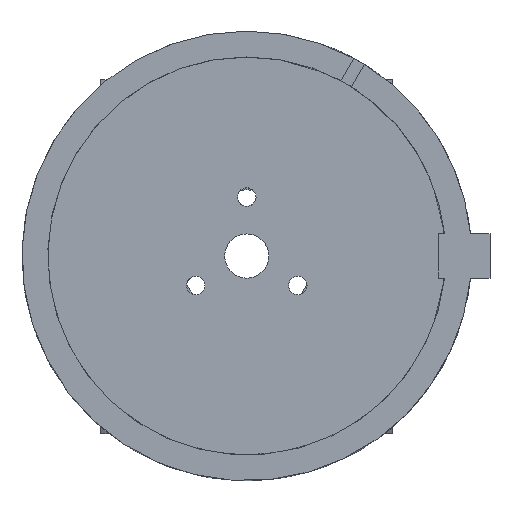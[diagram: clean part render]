
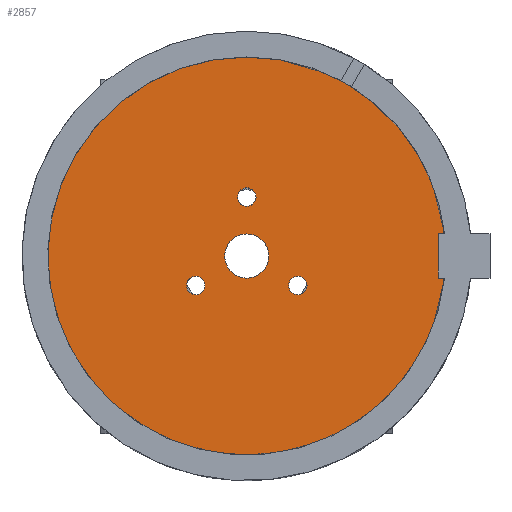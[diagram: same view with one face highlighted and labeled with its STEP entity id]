
A CAD part, top view. The second image highlights one B-rep face of the part: STEP entity #2857.
In plain terms, the highlighted planar face has unit normal (0, 0, 1).
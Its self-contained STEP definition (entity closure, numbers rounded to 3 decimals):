
#627 = CYLINDRICAL_SURFACE('',#628,27.);
#628 = AXIS2_PLACEMENT_3D('',#629,#630,#631);
#629 = CARTESIAN_POINT('',(0.,0.,72.));
#630 = DIRECTION('',(-0.,0.,-1.));
#631 = DIRECTION('',(0.,1.,0.));
#1532 = EDGE_CURVE('',#1533,#1533,#1535,.T.);
#1533 = VERTEX_POINT('',#1534);
#1534 = CARTESIAN_POINT('',(0.,27.,75.));
#1535 = SURFACE_CURVE('',#1536,(#1541,#1548),.PCURVE_S1.);
#1536 = CIRCLE('',#1537,27.);
#1537 = AXIS2_PLACEMENT_3D('',#1538,#1539,#1540);
#1538 = CARTESIAN_POINT('',(0.,0.,75.));
#1539 = DIRECTION('',(-0.,0.,-1.));
#1540 = DIRECTION('',(0.,1.,0.));
#1541 = PCURVE('',#627,#1542);
#1542 = DEFINITIONAL_REPRESENTATION('',(#1543),#1547);
#1543 = LINE('',#1544,#1545);
#1544 = CARTESIAN_POINT('',(-6.283,-3.));
#1545 = VECTOR('',#1546,1.);
#1546 = DIRECTION('',(1.,-0.));
#1547 = ( GEOMETRIC_REPRESENTATION_CONTEXT(2) 
PARAMETRIC_REPRESENTATION_CONTEXT() REPRESENTATION_CONTEXT('2D SPACE',''
  ) );
#1548 = PCURVE('',#1549,#1554);
#1549 = PLANE('',#1550);
#1550 = AXIS2_PLACEMENT_3D('',#1551,#1552,#1553);
#1551 = CARTESIAN_POINT('',(0.,0.,75.)
  );
#1552 = DIRECTION('',(0.,0.,1.));
#1553 = DIRECTION('',(1.,0.,-0.));
#1554 = DEFINITIONAL_REPRESENTATION('',(#1555),#1563);
#1555 = ( BOUNDED_CURVE() B_SPLINE_CURVE(2,(#1556,#1557,#1558,#1559,
#1560,#1561,#1562),.UNSPECIFIED.,.T.,.F.) B_SPLINE_CURVE_WITH_KNOTS((1,2
    ,2,2,2,1),(-2.094,0.,2.094,4.189,
6.283,8.378),.UNSPECIFIED.) CURVE() 
GEOMETRIC_REPRESENTATION_ITEM() RATIONAL_B_SPLINE_CURVE((1.,0.5,1.,0.5,
1.,0.5,1.)) REPRESENTATION_ITEM('') );
#1556 = CARTESIAN_POINT('',(0.,27.));
#1557 = CARTESIAN_POINT('',(46.765,27.));
#1558 = CARTESIAN_POINT('',(23.383,-13.5));
#1559 = CARTESIAN_POINT('',(0.,-54.));
#1560 = CARTESIAN_POINT('',(-23.383,-13.5));
#1561 = CARTESIAN_POINT('',(-46.765,27.));
#1562 = CARTESIAN_POINT('',(0.,27.));
#1563 = ( GEOMETRIC_REPRESENTATION_CONTEXT(2) 
PARAMETRIC_REPRESENTATION_CONTEXT() REPRESENTATION_CONTEXT('2D SPACE',''
  ) );
#2857 = ADVANCED_FACE('',(#2858,#2861,#2896,#2931,#2966),#1549,.T.);
#2858 = FACE_BOUND('',#2859,.T.);
#2859 = EDGE_LOOP('',(#2860));
#2860 = ORIENTED_EDGE('',*,*,#1532,.F.);
#2861 = FACE_BOUND('',#2862,.T.);
#2862 = EDGE_LOOP('',(#2863));
#2863 = ORIENTED_EDGE('',*,*,#2864,.T.);
#2864 = EDGE_CURVE('',#2865,#2865,#2867,.T.);
#2865 = VERTEX_POINT('',#2866);
#2866 = CARTESIAN_POINT('',(-6.928,-2.75,75.));
#2867 = SURFACE_CURVE('',#2868,(#2873,#2884),.PCURVE_S1.);
#2868 = CIRCLE('',#2869,1.25);
#2869 = AXIS2_PLACEMENT_3D('',#2870,#2871,#2872);
#2870 = CARTESIAN_POINT('',(-6.928,-4.,75.));
#2871 = DIRECTION('',(-0.,0.,-1.));
#2872 = DIRECTION('',(0.,1.,0.));
#2873 = PCURVE('',#1549,#2874);
#2874 = DEFINITIONAL_REPRESENTATION('',(#2875),#2883);
#2875 = ( BOUNDED_CURVE() B_SPLINE_CURVE(2,(#2876,#2877,#2878,#2879,
#2880,#2881,#2882),.UNSPECIFIED.,.T.,.F.) B_SPLINE_CURVE_WITH_KNOTS((1,2
    ,2,2,2,1),(-2.094,0.,2.094,4.189,
6.283,8.378),.UNSPECIFIED.) CURVE() 
GEOMETRIC_REPRESENTATION_ITEM() RATIONAL_B_SPLINE_CURVE((1.,0.5,1.,0.5,
1.,0.5,1.)) REPRESENTATION_ITEM('') );
#2876 = CARTESIAN_POINT('',(-6.928,-2.75));
#2877 = CARTESIAN_POINT('',(-4.763,-2.75));
#2878 = CARTESIAN_POINT('',(-5.846,-4.625));
#2879 = CARTESIAN_POINT('',(-6.928,-6.5));
#2880 = CARTESIAN_POINT('',(-8.011,-4.625));
#2881 = CARTESIAN_POINT('',(-9.093,-2.75));
#2882 = CARTESIAN_POINT('',(-6.928,-2.75));
#2883 = ( GEOMETRIC_REPRESENTATION_CONTEXT(2) 
PARAMETRIC_REPRESENTATION_CONTEXT() REPRESENTATION_CONTEXT('2D SPACE',''
  ) );
#2884 = PCURVE('',#2885,#2890);
#2885 = CYLINDRICAL_SURFACE('',#2886,1.25);
#2886 = AXIS2_PLACEMENT_3D('',#2887,#2888,#2889);
#2887 = CARTESIAN_POINT('',(-6.928,-4.,69.));
#2888 = DIRECTION('',(-0.,0.,-1.));
#2889 = DIRECTION('',(0.,1.,0.));
#2890 = DEFINITIONAL_REPRESENTATION('',(#2891),#2895);
#2891 = LINE('',#2892,#2893);
#2892 = CARTESIAN_POINT('',(-6.283,-6.));
#2893 = VECTOR('',#2894,1.);
#2894 = DIRECTION('',(1.,-0.));
#2895 = ( GEOMETRIC_REPRESENTATION_CONTEXT(2) 
PARAMETRIC_REPRESENTATION_CONTEXT() REPRESENTATION_CONTEXT('2D SPACE',''
  ) );
#2896 = FACE_BOUND('',#2897,.T.);
#2897 = EDGE_LOOP('',(#2898));
#2898 = ORIENTED_EDGE('',*,*,#2899,.T.);
#2899 = EDGE_CURVE('',#2900,#2900,#2902,.T.);
#2900 = VERTEX_POINT('',#2901);
#2901 = CARTESIAN_POINT('',(6.928,-2.75,75.));
#2902 = SURFACE_CURVE('',#2903,(#2908,#2919),.PCURVE_S1.);
#2903 = CIRCLE('',#2904,1.25);
#2904 = AXIS2_PLACEMENT_3D('',#2905,#2906,#2907);
#2905 = CARTESIAN_POINT('',(6.928,-4.,75.));
#2906 = DIRECTION('',(-0.,0.,-1.));
#2907 = DIRECTION('',(0.,1.,0.));
#2908 = PCURVE('',#1549,#2909);
#2909 = DEFINITIONAL_REPRESENTATION('',(#2910),#2918);
#2910 = ( BOUNDED_CURVE() B_SPLINE_CURVE(2,(#2911,#2912,#2913,#2914,
#2915,#2916,#2917),.UNSPECIFIED.,.T.,.F.) B_SPLINE_CURVE_WITH_KNOTS((1,2
    ,2,2,2,1),(-2.094,0.,2.094,4.189,
6.283,8.378),.UNSPECIFIED.) CURVE() 
GEOMETRIC_REPRESENTATION_ITEM() RATIONAL_B_SPLINE_CURVE((1.,0.5,1.,0.5,
1.,0.5,1.)) REPRESENTATION_ITEM('') );
#2911 = CARTESIAN_POINT('',(6.928,-2.75));
#2912 = CARTESIAN_POINT('',(9.093,-2.75));
#2913 = CARTESIAN_POINT('',(8.011,-4.625));
#2914 = CARTESIAN_POINT('',(6.928,-6.5));
#2915 = CARTESIAN_POINT('',(5.846,-4.625));
#2916 = CARTESIAN_POINT('',(4.763,-2.75));
#2917 = CARTESIAN_POINT('',(6.928,-2.75));
#2918 = ( GEOMETRIC_REPRESENTATION_CONTEXT(2) 
PARAMETRIC_REPRESENTATION_CONTEXT() REPRESENTATION_CONTEXT('2D SPACE',''
  ) );
#2919 = PCURVE('',#2920,#2925);
#2920 = CYLINDRICAL_SURFACE('',#2921,1.25);
#2921 = AXIS2_PLACEMENT_3D('',#2922,#2923,#2924);
#2922 = CARTESIAN_POINT('',(6.928,-4.,69.));
#2923 = DIRECTION('',(-0.,0.,-1.));
#2924 = DIRECTION('',(0.,1.,0.));
#2925 = DEFINITIONAL_REPRESENTATION('',(#2926),#2930);
#2926 = LINE('',#2927,#2928);
#2927 = CARTESIAN_POINT('',(-6.283,-6.));
#2928 = VECTOR('',#2929,1.);
#2929 = DIRECTION('',(1.,-0.));
#2930 = ( GEOMETRIC_REPRESENTATION_CONTEXT(2) 
PARAMETRIC_REPRESENTATION_CONTEXT() REPRESENTATION_CONTEXT('2D SPACE',''
  ) );
#2931 = FACE_BOUND('',#2932,.T.);
#2932 = EDGE_LOOP('',(#2933));
#2933 = ORIENTED_EDGE('',*,*,#2934,.T.);
#2934 = EDGE_CURVE('',#2935,#2935,#2937,.T.);
#2935 = VERTEX_POINT('',#2936);
#2936 = CARTESIAN_POINT('',(0.,3.,75.));
#2937 = SURFACE_CURVE('',#2938,(#2943,#2954),.PCURVE_S1.);
#2938 = CIRCLE('',#2939,3.);
#2939 = AXIS2_PLACEMENT_3D('',#2940,#2941,#2942);
#2940 = CARTESIAN_POINT('',(0.,0.,75.));
#2941 = DIRECTION('',(-0.,0.,-1.));
#2942 = DIRECTION('',(0.,1.,0.));
#2943 = PCURVE('',#1549,#2944);
#2944 = DEFINITIONAL_REPRESENTATION('',(#2945),#2953);
#2945 = ( BOUNDED_CURVE() B_SPLINE_CURVE(2,(#2946,#2947,#2948,#2949,
#2950,#2951,#2952),.UNSPECIFIED.,.T.,.F.) B_SPLINE_CURVE_WITH_KNOTS((1,2
    ,2,2,2,1),(-2.094,0.,2.094,4.189,
6.283,8.378),.UNSPECIFIED.) CURVE() 
GEOMETRIC_REPRESENTATION_ITEM() RATIONAL_B_SPLINE_CURVE((1.,0.5,1.,0.5,
1.,0.5,1.)) REPRESENTATION_ITEM('') );
#2946 = CARTESIAN_POINT('',(0.,3.));
#2947 = CARTESIAN_POINT('',(5.196,3.));
#2948 = CARTESIAN_POINT('',(2.598,-1.5));
#2949 = CARTESIAN_POINT('',(0.,-6.));
#2950 = CARTESIAN_POINT('',(-2.598,-1.5));
#2951 = CARTESIAN_POINT('',(-5.196,3.));
#2952 = CARTESIAN_POINT('',(0.,3.));
#2953 = ( GEOMETRIC_REPRESENTATION_CONTEXT(2) 
PARAMETRIC_REPRESENTATION_CONTEXT() REPRESENTATION_CONTEXT('2D SPACE',''
  ) );
#2954 = PCURVE('',#2955,#2960);
#2955 = CYLINDRICAL_SURFACE('',#2956,3.);
#2956 = AXIS2_PLACEMENT_3D('',#2957,#2958,#2959);
#2957 = CARTESIAN_POINT('',(0.,0.,58.));
#2958 = DIRECTION('',(-0.,0.,-1.));
#2959 = DIRECTION('',(0.,1.,0.));
#2960 = DEFINITIONAL_REPRESENTATION('',(#2961),#2965);
#2961 = LINE('',#2962,#2963);
#2962 = CARTESIAN_POINT('',(-6.283,-17.));
#2963 = VECTOR('',#2964,1.);
#2964 = DIRECTION('',(1.,-0.));
#2965 = ( GEOMETRIC_REPRESENTATION_CONTEXT(2) 
PARAMETRIC_REPRESENTATION_CONTEXT() REPRESENTATION_CONTEXT('2D SPACE',''
  ) );
#2966 = FACE_BOUND('',#2967,.T.);
#2967 = EDGE_LOOP('',(#2968));
#2968 = ORIENTED_EDGE('',*,*,#2969,.T.);
#2969 = EDGE_CURVE('',#2970,#2970,#2972,.T.);
#2970 = VERTEX_POINT('',#2971);
#2971 = CARTESIAN_POINT('',(0.,9.25,75.));
#2972 = SURFACE_CURVE('',#2973,(#2978,#2989),.PCURVE_S1.);
#2973 = CIRCLE('',#2974,1.25);
#2974 = AXIS2_PLACEMENT_3D('',#2975,#2976,#2977);
#2975 = CARTESIAN_POINT('',(0.,8.,75.));
#2976 = DIRECTION('',(-0.,0.,-1.));
#2977 = DIRECTION('',(0.,1.,0.));
#2978 = PCURVE('',#1549,#2979);
#2979 = DEFINITIONAL_REPRESENTATION('',(#2980),#2988);
#2980 = ( BOUNDED_CURVE() B_SPLINE_CURVE(2,(#2981,#2982,#2983,#2984,
#2985,#2986,#2987),.UNSPECIFIED.,.T.,.F.) B_SPLINE_CURVE_WITH_KNOTS((1,2
    ,2,2,2,1),(-2.094,0.,2.094,4.189,
6.283,8.378),.UNSPECIFIED.) CURVE() 
GEOMETRIC_REPRESENTATION_ITEM() RATIONAL_B_SPLINE_CURVE((1.,0.5,1.,0.5,
1.,0.5,1.)) REPRESENTATION_ITEM('') );
#2981 = CARTESIAN_POINT('',(0.,9.25));
#2982 = CARTESIAN_POINT('',(2.165,9.25));
#2983 = CARTESIAN_POINT('',(1.083,7.375));
#2984 = CARTESIAN_POINT('',(0.,5.5));
#2985 = CARTESIAN_POINT('',(-1.083,7.375));
#2986 = CARTESIAN_POINT('',(-2.165,9.25));
#2987 = CARTESIAN_POINT('',(0.,9.25));
#2988 = ( GEOMETRIC_REPRESENTATION_CONTEXT(2) 
PARAMETRIC_REPRESENTATION_CONTEXT() REPRESENTATION_CONTEXT('2D SPACE',''
  ) );
#2989 = PCURVE('',#2990,#2995);
#2990 = CYLINDRICAL_SURFACE('',#2991,1.25);
#2991 = AXIS2_PLACEMENT_3D('',#2992,#2993,#2994);
#2992 = CARTESIAN_POINT('',(0.,8.,69.));
#2993 = DIRECTION('',(-0.,0.,-1.));
#2994 = DIRECTION('',(0.,1.,0.));
#2995 = DEFINITIONAL_REPRESENTATION('',(#2996),#3000);
#2996 = LINE('',#2997,#2998);
#2997 = CARTESIAN_POINT('',(-6.283,-6.));
#2998 = VECTOR('',#2999,1.);
#2999 = DIRECTION('',(1.,-0.));
#3000 = ( GEOMETRIC_REPRESENTATION_CONTEXT(2) 
PARAMETRIC_REPRESENTATION_CONTEXT() REPRESENTATION_CONTEXT('2D SPACE',''
  ) );
